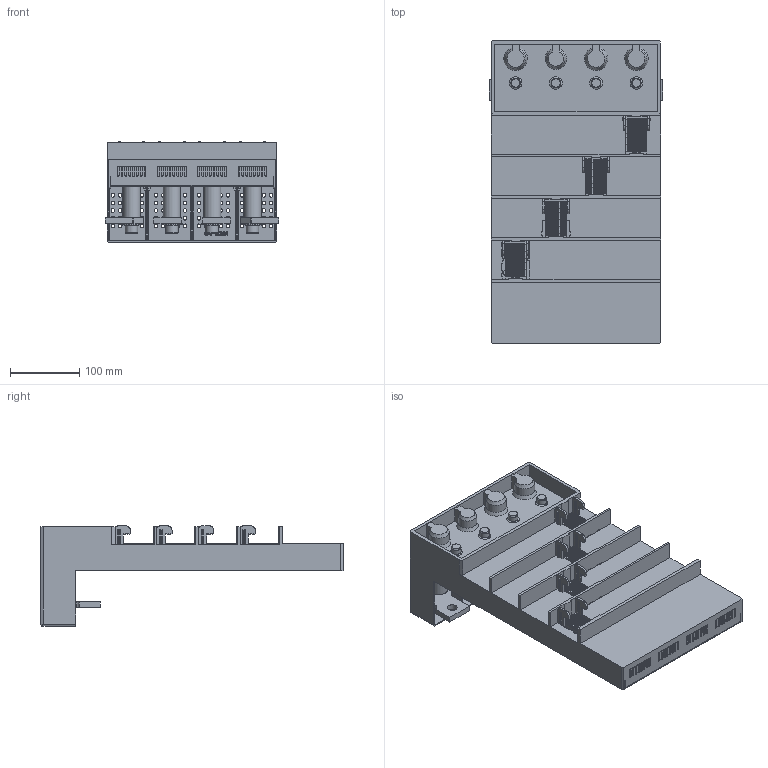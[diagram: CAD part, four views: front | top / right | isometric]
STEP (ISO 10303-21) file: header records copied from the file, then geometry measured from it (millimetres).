
FILE_DESCRIPTION (( 'STEP AP203' ), '1' );
FILE_NAME ('55025.STEP', '2021-09-01T02:10:54', ( '' ), ( '' ), 'SwSTEP 2.0', 'SolidWorks 2017', '' );
FILE_SCHEMA (( 'CONFIG_CONTROL_DESIGN' ));
Products named in the file (2): 55025
Bounding box: 250 x 435 x 144.5 mm (x, y, z)
Volume: 3609273.9 mm3; surface area: 875862 mm2
Topology: 3 solids, 51 shells, 4177 faces, 12902 edges, 8330 vertices
Faces by surface type: plane 3273, cylinder 693, cone 118, bspline 89, sphere 2, torus 2
Full cylindrical faces by diameter (mm): 3.2 x12, 4.2 x2, 4.5 x10, 5 x14, 5.355 x100, 6 x7, 6.5 x2, 7 x3, 8 x4, 8.5 x4, 9 x12, 9.5 x8, 9.933 x6, 10.647 x4, 11 x2, 11.5 x3, 12 x5, 12.5 x4, 13 x8, 14 x14, 15 x2, 17 x2, 18 x4, 25 x4, 26 x4, 27.399 x8, 30 x4
Entity records: 156723 total; most frequent: CARTESIAN_POINT 44908, ORIENTED_EDGE 24670, DIRECTION 21193, EDGE_CURVE 12335, VERTEX_POINT 8150, VECTOR 7951, LINE 7951, AXIS2_PLACEMENT_3D 6621
